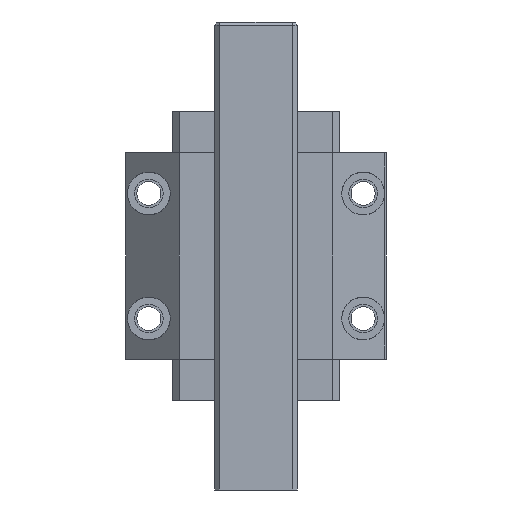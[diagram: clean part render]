
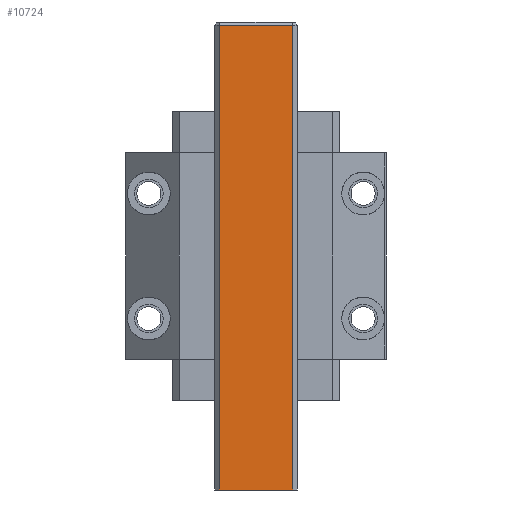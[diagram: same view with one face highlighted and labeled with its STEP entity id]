
A CAD part, front view. The second image highlights one B-rep face of the part: STEP entity #10724.
In plain terms, the highlighted planar face has unit normal (0, -1, 0).
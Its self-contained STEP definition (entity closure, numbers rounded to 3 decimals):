
#9685=DIRECTION('',(1.,0.,0.));
#9686=VECTOR('',#9685,20.6);
#9687=CARTESIAN_POINT('',(-10.3,-14.6,-65.5));
#9688=LINE('',#9687,#9686);
#9958=DIRECTION('',(1.,0.,0.));
#9959=VECTOR('',#9958,20.6);
#9960=CARTESIAN_POINT('',(-10.3,-14.6,64.634));
#9961=LINE('',#9960,#9959);
#9962=DIRECTION('',(0.,0.,1.));
#9963=VECTOR('',#9962,130.134);
#9964=CARTESIAN_POINT('',(-10.3,-14.6,-65.5));
#9965=LINE('',#9964,#9963);
#9970=DIRECTION('',(0.,0.,1.));
#9971=VECTOR('',#9970,130.134);
#9972=CARTESIAN_POINT('',(10.3,-14.6,-65.5));
#9973=LINE('',#9972,#9971);
#10156=CARTESIAN_POINT('',(-10.3,-14.6,-65.5));
#10157=VERTEX_POINT('',#10156);
#10158=CARTESIAN_POINT('',(10.3,-14.6,-65.5));
#10159=VERTEX_POINT('',#10158);
#10220=CARTESIAN_POINT('',(10.3,-14.6,64.634));
#10221=VERTEX_POINT('',#10220);
#10224=CARTESIAN_POINT('',(-10.3,-14.6,64.634));
#10225=VERTEX_POINT('',#10224);
#10712=CARTESIAN_POINT('',(-10.3,-14.6,-65.5));
#10713=DIRECTION('',(0.,-1.,0.));
#10714=DIRECTION('',(1.,0.,0.));
#10715=AXIS2_PLACEMENT_3D('',#10712,#10713,#10714);
#10716=PLANE('',#10715);
#10717=ORIENTED_EDGE('',*,*,#10703,.T.);
#10719=ORIENTED_EDGE('',*,*,#10718,.F.);
#10720=ORIENTED_EDGE('',*,*,#10305,.F.);
#10721=ORIENTED_EDGE('',*,*,#10678,.T.);
#10722=EDGE_LOOP('',(#10717,#10719,#10720,#10721));
#10723=FACE_OUTER_BOUND('',#10722,.F.);
#10305=EDGE_CURVE('',#10157,#10159,#9688,.T.);
#10678=EDGE_CURVE('',#10157,#10225,#9965,.T.);
#10703=EDGE_CURVE('',#10225,#10221,#9961,.T.);
#10718=EDGE_CURVE('',#10159,#10221,#9973,.T.);
#10724=ADVANCED_FACE('',(#10723),#10716,.T.);
